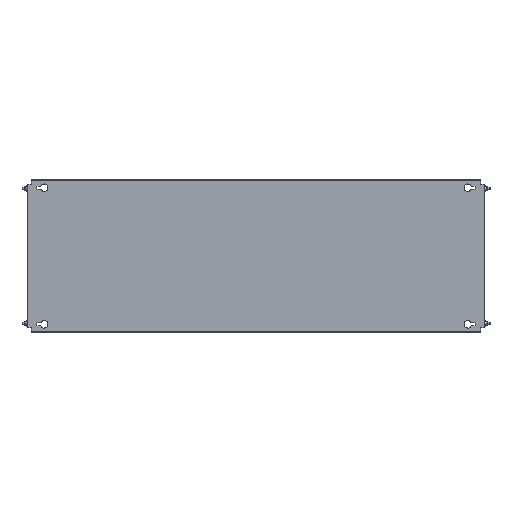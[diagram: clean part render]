
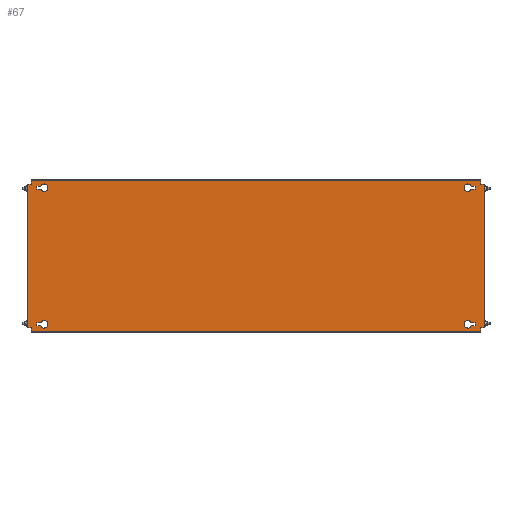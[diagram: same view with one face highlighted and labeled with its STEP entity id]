
A CAD part, top view. The second image highlights one B-rep face of the part: STEP entity #67.
In plain terms, the highlighted planar face has unit normal (0, 0, 1).
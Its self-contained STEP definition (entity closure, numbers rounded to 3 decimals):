
#67 = ADVANCED_FACE('',(#68,#103,#138,#300,#335),#370,.T.);
#68 = FACE_BOUND('',#69,.T.);
#69 = EDGE_LOOP('',(#70,#80,#88,#96));
#70 = ORIENTED_EDGE('',*,*,#71,.T.);
#71 = EDGE_CURVE('',#72,#74,#76,.T.);
#72 = VERTEX_POINT('',#73);
#73 = CARTESIAN_POINT('',(518.393,167.75,2.5));
#74 = VERTEX_POINT('',#75);
#75 = CARTESIAN_POINT('',(528.,167.75,2.5));
#76 = LINE('',#77,#78);
#77 = CARTESIAN_POINT('',(527.,167.75,2.5));
#78 = VECTOR('',#79,1.);
#79 = DIRECTION('',(1.,0.,0.));
#80 = ORIENTED_EDGE('',*,*,#81,.T.);
#81 = EDGE_CURVE('',#74,#82,#84,.T.);
#82 = VERTEX_POINT('',#83);
#83 = CARTESIAN_POINT('',(528.,161.25,2.5));
#84 = LINE('',#85,#86);
#85 = CARTESIAN_POINT('',(528.,167.75,2.5));
#86 = VECTOR('',#87,1.);
#87 = DIRECTION('',(0.,-1.,0.));
#88 = ORIENTED_EDGE('',*,*,#89,.T.);
#89 = EDGE_CURVE('',#82,#90,#92,.T.);
#90 = VERTEX_POINT('',#91);
#91 = CARTESIAN_POINT('',(518.393,161.25,2.5));
#92 = LINE('',#93,#94);
#93 = CARTESIAN_POINT('',(527.,161.25,2.5));
#94 = VECTOR('',#95,1.);
#95 = DIRECTION('',(-1.,0.,0.));
#96 = ORIENTED_EDGE('',*,*,#97,.T.);
#97 = EDGE_CURVE('',#90,#72,#98,.T.);
#98 = CIRCLE('',#99,9.);
#99 = AXIS2_PLACEMENT_3D('',#100,#101,#102);
#100 = CARTESIAN_POINT('',(510.,164.5,2.5));
#101 = DIRECTION('',(0.,0.,-1.));
#102 = DIRECTION('',(1.,0.,0.));
#103 = FACE_BOUND('',#104,.T.);
#104 = EDGE_LOOP('',(#105,#115,#123,#131));
#105 = ORIENTED_EDGE('',*,*,#106,.T.);
#106 = EDGE_CURVE('',#107,#109,#111,.T.);
#107 = VERTEX_POINT('',#108);
#108 = CARTESIAN_POINT('',(-518.393,-167.75,2.5));
#109 = VERTEX_POINT('',#110);
#110 = CARTESIAN_POINT('',(-528.,-167.75,2.5));
#111 = LINE('',#112,#113);
#112 = CARTESIAN_POINT('',(-527.,-167.75,2.5));
#113 = VECTOR('',#114,1.);
#114 = DIRECTION('',(-1.,0.,0.));
#115 = ORIENTED_EDGE('',*,*,#116,.T.);
#116 = EDGE_CURVE('',#109,#117,#119,.T.);
#117 = VERTEX_POINT('',#118);
#118 = CARTESIAN_POINT('',(-528.,-161.25,2.5));
#119 = LINE('',#120,#121);
#120 = CARTESIAN_POINT('',(-528.,-167.75,2.5));
#121 = VECTOR('',#122,1.);
#122 = DIRECTION('',(0.,1.,0.));
#123 = ORIENTED_EDGE('',*,*,#124,.T.);
#124 = EDGE_CURVE('',#117,#125,#127,.T.);
#125 = VERTEX_POINT('',#126);
#126 = CARTESIAN_POINT('',(-518.393,-161.25,2.5));
#127 = LINE('',#128,#129);
#128 = CARTESIAN_POINT('',(-527.,-161.25,2.5));
#129 = VECTOR('',#130,1.);
#130 = DIRECTION('',(1.,-0.,-0.));
#131 = ORIENTED_EDGE('',*,*,#132,.T.);
#132 = EDGE_CURVE('',#125,#107,#133,.T.);
#133 = CIRCLE('',#134,9.);
#134 = AXIS2_PLACEMENT_3D('',#135,#136,#137);
#135 = CARTESIAN_POINT('',(-510.,-164.5,2.5));
#136 = DIRECTION('',(0.,0.,-1.));
#137 = DIRECTION('',(-1.,0.,0.));
#138 = FACE_BOUND('',#139,.T.);
#139 = EDGE_LOOP('',(#140,#150,#158,#166,#174,#182,#190,#198,#206,#214,
    #222,#230,#238,#246,#254,#262,#270,#278,#286,#294));
#140 = ORIENTED_EDGE('',*,*,#141,.F.);
#141 = EDGE_CURVE('',#142,#144,#146,.T.);
#142 = VERTEX_POINT('',#143);
#143 = CARTESIAN_POINT('',(-546.9,172.5,2.5));
#144 = VERTEX_POINT('',#145);
#145 = CARTESIAN_POINT('',(-541.5,172.5,2.5));
#146 = LINE('',#147,#148);
#147 = CARTESIAN_POINT('',(-547.5,172.5,2.5));
#148 = VECTOR('',#149,1.);
#149 = DIRECTION('',(1.,0.,-0.));
#150 = ORIENTED_EDGE('',*,*,#151,.T.);
#151 = EDGE_CURVE('',#142,#152,#154,.T.);
#152 = VERTEX_POINT('',#153);
#153 = CARTESIAN_POINT('',(-550.,172.5,2.5));
#154 = LINE('',#155,#156);
#155 = CARTESIAN_POINT('',(-546.9,172.5,2.5));
#156 = VECTOR('',#157,1.);
#157 = DIRECTION('',(-1.,0.,0.));
#158 = ORIENTED_EDGE('',*,*,#159,.F.);
#159 = EDGE_CURVE('',#160,#152,#162,.T.);
#160 = VERTEX_POINT('',#161);
#161 = CARTESIAN_POINT('',(-550.,-172.5,2.5));
#162 = LINE('',#163,#164);
#163 = CARTESIAN_POINT('',(-550.,-182.,2.5));
#164 = VECTOR('',#165,1.);
#165 = DIRECTION('',(-0.,1.,-0.));
#166 = ORIENTED_EDGE('',*,*,#167,.F.);
#167 = EDGE_CURVE('',#168,#160,#170,.T.);
#168 = VERTEX_POINT('',#169);
#169 = CARTESIAN_POINT('',(-546.9,-172.5,2.5));
#170 = LINE('',#171,#172);
#171 = CARTESIAN_POINT('',(-541.5,-172.5,2.5));
#172 = VECTOR('',#173,1.);
#173 = DIRECTION('',(-1.,-0.,-0.));
#174 = ORIENTED_EDGE('',*,*,#175,.T.);
#175 = EDGE_CURVE('',#168,#176,#178,.T.);
#176 = VERTEX_POINT('',#177);
#177 = CARTESIAN_POINT('',(-541.5,-172.5,2.5));
#178 = LINE('',#179,#180);
#179 = CARTESIAN_POINT('',(-547.5,-172.5,2.5));
#180 = VECTOR('',#181,1.);
#181 = DIRECTION('',(1.,0.,-0.));
#182 = ORIENTED_EDGE('',*,*,#183,.T.);
#183 = EDGE_CURVE('',#176,#184,#186,.T.);
#184 = VERTEX_POINT('',#185);
#185 = CARTESIAN_POINT('',(-541.5,-181.4,2.5));
#186 = LINE('',#187,#188);
#187 = CARTESIAN_POINT('',(-541.5,182.,2.5));
#188 = VECTOR('',#189,1.);
#189 = DIRECTION('',(0.,-1.,0.));
#190 = ORIENTED_EDGE('',*,*,#191,.T.);
#191 = EDGE_CURVE('',#184,#192,#194,.T.);
#192 = VERTEX_POINT('',#193);
#193 = CARTESIAN_POINT('',(-541.5,-182.,2.5));
#194 = LINE('',#195,#196);
#195 = CARTESIAN_POINT('',(-541.5,-181.4,2.5));
#196 = VECTOR('',#197,1.);
#197 = DIRECTION('',(-0.,-1.,-0.));
#198 = ORIENTED_EDGE('',*,*,#199,.T.);
#199 = EDGE_CURVE('',#192,#200,#202,.T.);
#200 = VERTEX_POINT('',#201);
#201 = CARTESIAN_POINT('',(541.5,-182.,2.5));
#202 = LINE('',#203,#204);
#203 = CARTESIAN_POINT('',(541.5,-182.,2.5));
#204 = VECTOR('',#205,1.);
#205 = DIRECTION('',(1.,0.,0.));
#206 = ORIENTED_EDGE('',*,*,#207,.F.);
#207 = EDGE_CURVE('',#208,#200,#210,.T.);
#208 = VERTEX_POINT('',#209);
#209 = CARTESIAN_POINT('',(541.5,-181.4,2.5));
#210 = LINE('',#211,#212);
#211 = CARTESIAN_POINT('',(541.5,-182.,2.5));
#212 = VECTOR('',#213,1.);
#213 = DIRECTION('',(0.,-1.,0.));
#214 = ORIENTED_EDGE('',*,*,#215,.T.);
#215 = EDGE_CURVE('',#208,#216,#218,.T.);
#216 = VERTEX_POINT('',#217);
#217 = CARTESIAN_POINT('',(541.5,-172.5,2.5));
#218 = LINE('',#219,#220);
#219 = CARTESIAN_POINT('',(541.5,182.,2.5));
#220 = VECTOR('',#221,1.);
#221 = DIRECTION('',(-0.,1.,-0.));
#222 = ORIENTED_EDGE('',*,*,#223,.F.);
#223 = EDGE_CURVE('',#224,#216,#226,.T.);
#224 = VERTEX_POINT('',#225);
#225 = CARTESIAN_POINT('',(546.9,-172.5,2.5));
#226 = LINE('',#227,#228);
#227 = CARTESIAN_POINT('',(547.5,-172.5,2.5));
#228 = VECTOR('',#229,1.);
#229 = DIRECTION('',(-1.,0.,-0.));
#230 = ORIENTED_EDGE('',*,*,#231,.T.);
#231 = EDGE_CURVE('',#224,#232,#234,.T.);
#232 = VERTEX_POINT('',#233);
#233 = CARTESIAN_POINT('',(550.,-172.5,2.5));
#234 = LINE('',#235,#236);
#235 = CARTESIAN_POINT('',(546.9,-172.5,2.5));
#236 = VECTOR('',#237,1.);
#237 = DIRECTION('',(1.,-0.,0.));
#238 = ORIENTED_EDGE('',*,*,#239,.F.);
#239 = EDGE_CURVE('',#240,#232,#242,.T.);
#240 = VERTEX_POINT('',#241);
#241 = CARTESIAN_POINT('',(550.,172.5,2.5));
#242 = LINE('',#243,#244);
#243 = CARTESIAN_POINT('',(550.,-182.,2.5));
#244 = VECTOR('',#245,1.);
#245 = DIRECTION('',(-0.,-1.,0.));
#246 = ORIENTED_EDGE('',*,*,#247,.F.);
#247 = EDGE_CURVE('',#248,#240,#250,.T.);
#248 = VERTEX_POINT('',#249);
#249 = CARTESIAN_POINT('',(546.9,172.5,2.5));
#250 = LINE('',#251,#252);
#251 = CARTESIAN_POINT('',(-541.5,172.5,2.5));
#252 = VECTOR('',#253,1.);
#253 = DIRECTION('',(1.,-0.,0.));
#254 = ORIENTED_EDGE('',*,*,#255,.T.);
#255 = EDGE_CURVE('',#248,#256,#258,.T.);
#256 = VERTEX_POINT('',#257);
#257 = CARTESIAN_POINT('',(541.5,172.5,2.5));
#258 = LINE('',#259,#260);
#259 = CARTESIAN_POINT('',(547.5,172.5,2.5));
#260 = VECTOR('',#261,1.);
#261 = DIRECTION('',(-1.,0.,-0.));
#262 = ORIENTED_EDGE('',*,*,#263,.T.);
#263 = EDGE_CURVE('',#256,#264,#266,.T.);
#264 = VERTEX_POINT('',#265);
#265 = CARTESIAN_POINT('',(541.5,181.4,2.5));
#266 = LINE('',#267,#268);
#267 = CARTESIAN_POINT('',(541.5,182.,2.5));
#268 = VECTOR('',#269,1.);
#269 = DIRECTION('',(-0.,1.,-0.));
#270 = ORIENTED_EDGE('',*,*,#271,.T.);
#271 = EDGE_CURVE('',#264,#272,#274,.T.);
#272 = VERTEX_POINT('',#273);
#273 = CARTESIAN_POINT('',(541.5,182.,2.5));
#274 = LINE('',#275,#276);
#275 = CARTESIAN_POINT('',(541.5,181.4,2.5));
#276 = VECTOR('',#277,1.);
#277 = DIRECTION('',(-0.,1.,-0.));
#278 = ORIENTED_EDGE('',*,*,#279,.T.);
#279 = EDGE_CURVE('',#272,#280,#282,.T.);
#280 = VERTEX_POINT('',#281);
#281 = CARTESIAN_POINT('',(-541.5,182.,2.5));
#282 = LINE('',#283,#284);
#283 = CARTESIAN_POINT('',(-541.5,182.,2.5));
#284 = VECTOR('',#285,1.);
#285 = DIRECTION('',(-1.,0.,0.));
#286 = ORIENTED_EDGE('',*,*,#287,.F.);
#287 = EDGE_CURVE('',#288,#280,#290,.T.);
#288 = VERTEX_POINT('',#289);
#289 = CARTESIAN_POINT('',(-541.5,181.4,2.5));
#290 = LINE('',#291,#292);
#291 = CARTESIAN_POINT('',(-541.5,-182.,2.5));
#292 = VECTOR('',#293,1.);
#293 = DIRECTION('',(0.,1.,-0.));
#294 = ORIENTED_EDGE('',*,*,#295,.T.);
#295 = EDGE_CURVE('',#288,#144,#296,.T.);
#296 = LINE('',#297,#298);
#297 = CARTESIAN_POINT('',(-541.5,182.,2.5));
#298 = VECTOR('',#299,1.);
#299 = DIRECTION('',(0.,-1.,0.));
#300 = FACE_BOUND('',#301,.T.);
#301 = EDGE_LOOP('',(#302,#312,#320,#328));
#302 = ORIENTED_EDGE('',*,*,#303,.F.);
#303 = EDGE_CURVE('',#304,#306,#308,.T.);
#304 = VERTEX_POINT('',#305);
#305 = CARTESIAN_POINT('',(528.,-161.25,2.5));
#306 = VERTEX_POINT('',#307);
#307 = CARTESIAN_POINT('',(518.393,-161.25,2.5));
#308 = LINE('',#309,#310);
#309 = CARTESIAN_POINT('',(518.393,-161.25,2.5));
#310 = VECTOR('',#311,1.);
#311 = DIRECTION('',(-1.,0.,0.));
#312 = ORIENTED_EDGE('',*,*,#313,.F.);
#313 = EDGE_CURVE('',#314,#304,#316,.T.);
#314 = VERTEX_POINT('',#315);
#315 = CARTESIAN_POINT('',(528.,-167.75,2.5));
#316 = LINE('',#317,#318);
#317 = CARTESIAN_POINT('',(528.,-161.25,2.5));
#318 = VECTOR('',#319,1.);
#319 = DIRECTION('',(0.,1.,0.));
#320 = ORIENTED_EDGE('',*,*,#321,.F.);
#321 = EDGE_CURVE('',#322,#314,#324,.T.);
#322 = VERTEX_POINT('',#323);
#323 = CARTESIAN_POINT('',(518.393,-167.75,2.5));
#324 = LINE('',#325,#326);
#325 = CARTESIAN_POINT('',(527.,-167.75,2.5));
#326 = VECTOR('',#327,1.);
#327 = DIRECTION('',(1.,0.,0.));
#328 = ORIENTED_EDGE('',*,*,#329,.F.);
#329 = EDGE_CURVE('',#306,#322,#330,.T.);
#330 = CIRCLE('',#331,9.);
#331 = AXIS2_PLACEMENT_3D('',#332,#333,#334);
#332 = CARTESIAN_POINT('',(510.,-164.5,2.5));
#333 = DIRECTION('',(0.,-0.,1.));
#334 = DIRECTION('',(1.,0.,0.));
#335 = FACE_BOUND('',#336,.T.);
#336 = EDGE_LOOP('',(#337,#347,#355,#363));
#337 = ORIENTED_EDGE('',*,*,#338,.F.);
#338 = EDGE_CURVE('',#339,#341,#343,.T.);
#339 = VERTEX_POINT('',#340);
#340 = CARTESIAN_POINT('',(-528.,161.25,2.5));
#341 = VERTEX_POINT('',#342);
#342 = CARTESIAN_POINT('',(-518.393,161.25,2.5));
#343 = LINE('',#344,#345);
#344 = CARTESIAN_POINT('',(-518.393,161.25,2.5));
#345 = VECTOR('',#346,1.);
#346 = DIRECTION('',(1.,0.,0.));
#347 = ORIENTED_EDGE('',*,*,#348,.F.);
#348 = EDGE_CURVE('',#349,#339,#351,.T.);
#349 = VERTEX_POINT('',#350);
#350 = CARTESIAN_POINT('',(-528.,167.75,2.5));
#351 = LINE('',#352,#353);
#352 = CARTESIAN_POINT('',(-528.,161.25,2.5));
#353 = VECTOR('',#354,1.);
#354 = DIRECTION('',(0.,-1.,0.));
#355 = ORIENTED_EDGE('',*,*,#356,.F.);
#356 = EDGE_CURVE('',#357,#349,#359,.T.);
#357 = VERTEX_POINT('',#358);
#358 = CARTESIAN_POINT('',(-518.393,167.75,2.5));
#359 = LINE('',#360,#361);
#360 = CARTESIAN_POINT('',(-527.,167.75,2.5));
#361 = VECTOR('',#362,1.);
#362 = DIRECTION('',(-1.,0.,0.));
#363 = ORIENTED_EDGE('',*,*,#364,.F.);
#364 = EDGE_CURVE('',#341,#357,#365,.T.);
#365 = CIRCLE('',#366,9.);
#366 = AXIS2_PLACEMENT_3D('',#367,#368,#369);
#367 = CARTESIAN_POINT('',(-510.,164.5,2.5));
#368 = DIRECTION('',(0.,-0.,1.));
#369 = DIRECTION('',(-1.,0.,0.));
#370 = PLANE('',#371);
#371 = AXIS2_PLACEMENT_3D('',#372,#373,#374);
#372 = CARTESIAN_POINT('',(-541.5,-182.,2.5));
#373 = DIRECTION('',(-0.,0.,1.));
#374 = DIRECTION('',(1.,0.,0.));
